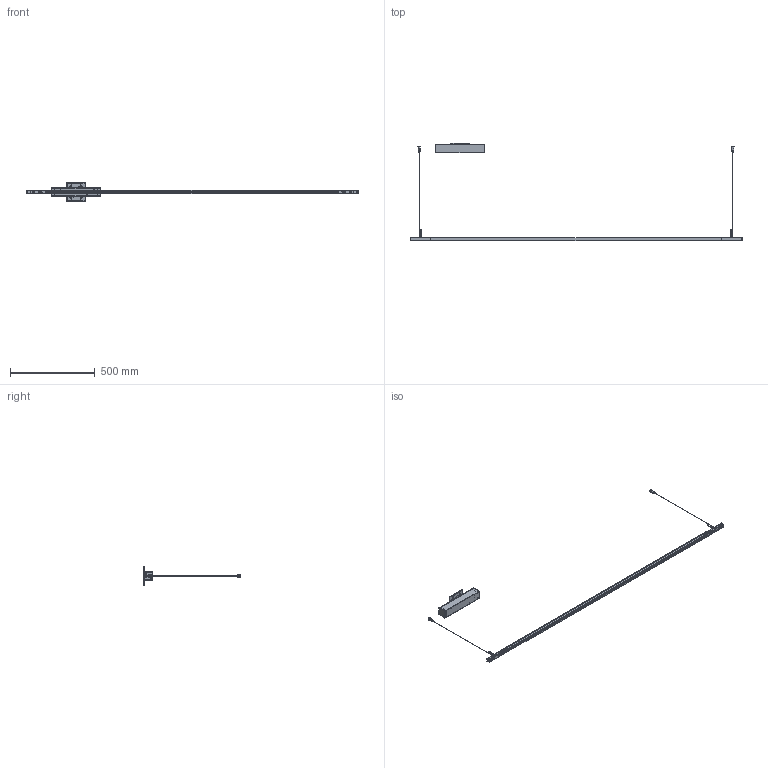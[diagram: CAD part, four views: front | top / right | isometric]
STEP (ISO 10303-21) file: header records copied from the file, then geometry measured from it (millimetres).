
FILE_DESCRIPTION (( 'STEP AP203' ), '1' );
FILE_NAME ('LINESCAPES PEND H L200.STEP', '2017-07-28T14:40:25', ( 'user' ), ( '' ), 'SwSTEP 2.0', 'SolidWorks 2016', '' );
FILE_SCHEMA (( 'CONFIG_CONTROL_DESIGN' ));
Length unit declared in the file: millimetre
Products named in the file (31): 052LIN700400; 052SPI700600_2; Assieme barra led 1600; CONNETTORE OTTONE 2 VITI; 010SPI700100a; 052LIN700100_no alim; 052LIN700300; 010SPI700100b; 010LIN001200_staffa muro; 049LIN000_HORIZONTAL END - 049LIN700300; grano_M5x4_B18.3.6M - M5 x 0.8 x 5 Hex Socket Flat Pt. SS --N; 010SPI700300; 010LIN700700_estruso rosone; 010COM000004; 049LIN000_HORIZONTAL START - 049LINB700100; 052LIN700200; 010LIN700800_tappo rosone dx; 019COM000271; profili - spigolo_1700; CONNETTORE OTTONE 2 VITI_senza viti; 010LIN701700_tappo rosone sx; 010MYR007600_Square cover plate; schermo tru sospesa_17; 019COM000081; ROSONE SPIGOLO usa; 524LCY000001_Crossbar; 052SPI700400; Parte1^049LIN000; 052LIN700100; LINESCAPES PEND H L200; 093COM000003 - STRISCIA LED TRU_1650
Assembly tree (53 placements, depth 3):
  LINESCAPES PEND H L200
    ROSONE SPIGOLO usa
      010LIN001200_staffa muro
      010LIN700700_estruso rosone
      010LIN700800_tappo rosone dx
      010LIN701700_tappo rosone sx
    049LIN000_HORIZONTAL START - 049LINB700100
      052LIN700100
      052SPI700600_2
      010SPI700100a
      010SPI700100b
      010SPI700300  x2
      052LIN700200
      CONNETTORE OTTONE 2 VITI_senza viti  x2
      019COM000081
      Parte1^049LIN000
      052LIN700400
      CONNETTORE OTTONE 2 VITI  x2
      052LIN700300  x2
      grano_M5x4_B18.3.6M - M5 x 0.8 x 5 Hex Socket Flat Pt. SS --N
    Assieme barra led 1600
      profili - spigolo_1700
      schermo tru sospesa_17
      052SPI700400  x2
      093COM000003 - STRISCIA LED TRU_1650
    049LIN000_HORIZONTAL END - 049LIN700300
      052LIN700100_no alim
      052SPI700600_2
      010SPI700100a  x2
      010SPI700100b  x2
      010SPI700300  x2
      052LIN700200
      CONNETTORE OTTONE 2 VITI_senza viti  x2
      019COM000081
      Parte1^049LIN000
      052LIN700400
      052LIN700300  x2
      grano_M5x4_B18.3.6M - M5 x 0.8 x 5 Hex Socket Flat Pt. SS --N
    010COM000004  x2
    019COM000271  x2
    010MYR007600_Square cover plate
    524LCY000001_Crossbar
Bounding box: 1955.4 x 576 x 109 mm (x, y, z)
Volume: 500156.2 mm3; surface area: 598388.9 mm2
Topology: 100 solids, 100 shells, 8126 faces, 20807 edges, 13236 vertices
Faces by surface type: plane 5516, cylinder 1420, bspline 732, sphere 166, cone 162, torus 130
Entity records: 216243 total; most frequent: CARTESIAN_POINT 66886, ORIENTED_EDGE 31542, DIRECTION 27118, EDGE_CURVE 15771, VECTOR 12564, LINE 12564, VERTEX_POINT 10227, AXIS2_PLACEMENT_3D 7277
